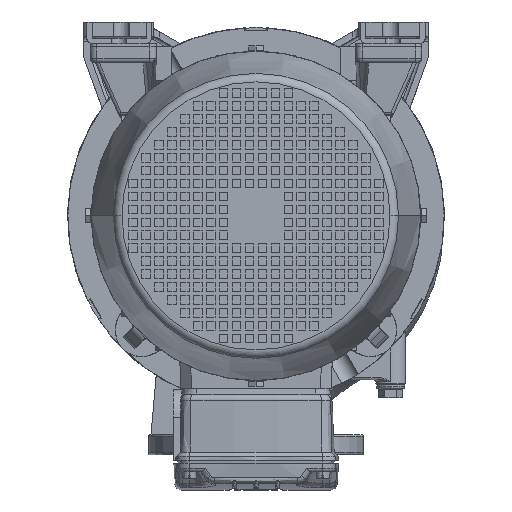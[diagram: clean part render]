
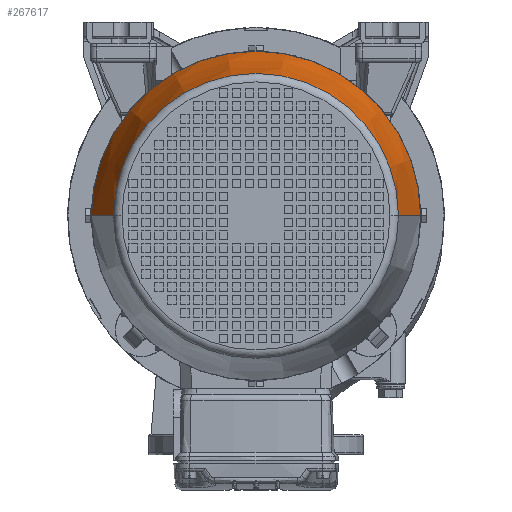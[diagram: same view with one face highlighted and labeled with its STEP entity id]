
A CAD part, front view. The second image highlights one B-rep face of the part: STEP entity #267617.
In plain terms, the highlighted conical face has half-angle 11 degrees and reference radius 132.258 mm.
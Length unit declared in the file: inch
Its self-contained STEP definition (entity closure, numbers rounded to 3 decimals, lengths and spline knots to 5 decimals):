
#2618 = CARTESIAN_POINT ( 'NONE',  ( 0., 0., -6.96516 ) ) ;
#4061 = DIRECTION ( 'NONE',  ( 0., 0., 1. ) ) ;
#10596 = VECTOR ( 'NONE', #165324, 39.37008 ) ;
#12597 = CARTESIAN_POINT ( 'NONE',  ( -5.20702, 0., -11.12899 ) ) ;
#16258 = CIRCLE ( 'NONE', #236130, 5.20702 ) ;
#19611 = CARTESIAN_POINT ( 'NONE',  ( 0., 0., -11.12899 ) ) ;
#22724 = ORIENTED_EDGE ( 'NONE', *, *, #219223, .F. ) ;
#45521 = EDGE_CURVE ( 'NONE', #110868, #55113, #238859, .T. ) ;
#51085 = EDGE_CURVE ( 'NONE', #69905, #55113, #182950, .T. ) ;
#55113 = VERTEX_POINT ( 'NONE', #170957 ) ;
#63779 = EDGE_LOOP ( 'NONE', ( #22724, #230066, #83043, #123374 ) ) ;
#69905 = VERTEX_POINT ( 'NONE', #113449 ) ;
#78664 = AXIS2_PLACEMENT_3D ( 'NONE', #152144, #175579, #147805 ) ;
#83043 = ORIENTED_EDGE ( 'NONE', *, *, #51085, .T. ) ;
#93372 = DIRECTION ( 'NONE',  ( 1., 0., 0. ) ) ;
#98416 = AXIS2_PLACEMENT_3D ( 'NONE', #2618, #4061, #93372 ) ;
#110868 = VERTEX_POINT ( 'NONE', #184851 ) ;
#113449 = CARTESIAN_POINT ( 'NONE',  ( 5.20702, 0., -11.12899 ) ) ;
#120602 = VERTEX_POINT ( 'NONE', #261881 ) ;
#123374 = ORIENTED_EDGE ( 'NONE', *, *, #45521, .F. ) ;
#147805 = DIRECTION ( 'NONE',  ( 1., 0., 0. ) ) ;
#152144 = CARTESIAN_POINT ( 'NONE',  ( 0., 0., -11.12899 ) ) ;
#162444 = CARTESIAN_POINT ( 'NONE',  ( 5.20702, 0., -11.12899 ) ) ;
#165324 = DIRECTION ( 'NONE',  ( 0.191, 0., 0.982 ) ) ;
#170957 = CARTESIAN_POINT ( 'NONE',  ( 6.01639, 0., -6.96516 ) ) ;
#174984 = DIRECTION ( 'NONE',  ( 1., 0., 0. ) ) ;
#175579 = DIRECTION ( 'NONE',  ( 0., 0., 1. ) ) ;
#179279 = DIRECTION ( 'NONE',  ( 0., 0., 1. ) ) ;
#182950 = LINE ( 'NONE', #162444, #10596 ) ;
#184851 = CARTESIAN_POINT ( 'NONE',  ( -6.01639, 0., -6.96516 ) ) ;
#194673 = FACE_OUTER_BOUND ( 'NONE', #63779, .T. ) ;
#219223 = EDGE_CURVE ( 'NONE', #120602, #110868, #257329, .T. ) ;
#230066 = ORIENTED_EDGE ( 'NONE', *, *, #276777, .T. ) ;
#236130 = AXIS2_PLACEMENT_3D ( 'NONE', #19611, #179279, #174984 ) ;
#237346 = CONICAL_SURFACE ( 'NONE', #78664, 5.20702, 0.192 ) ;
#238859 = CIRCLE ( 'NONE', #98416, 6.01639 ) ;
#239647 = VECTOR ( 'NONE', #276453, 39.37008 ) ;
#257329 = LINE ( 'NONE', #12597, #239647 ) ;
#261881 = CARTESIAN_POINT ( 'NONE',  ( -5.20702, 0., -11.12899 ) ) ;
#267617 = ADVANCED_FACE ( 'NONE', ( #194673 ), #237346, .T. ) ;
#276453 = DIRECTION ( 'NONE',  ( -0.191, 0., 0.982 ) ) ;
#276777 = EDGE_CURVE ( 'NONE', #120602, #69905, #16258, .T. ) ;
